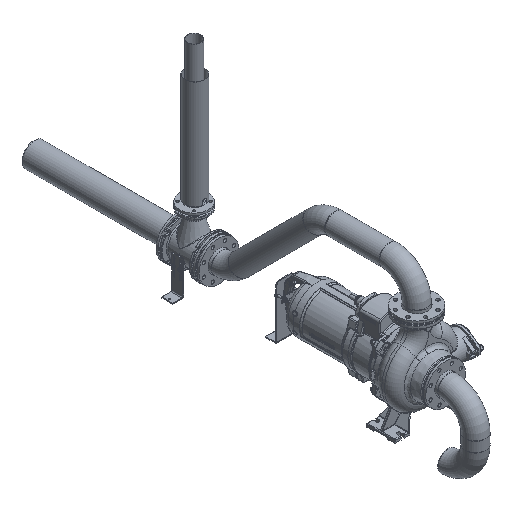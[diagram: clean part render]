
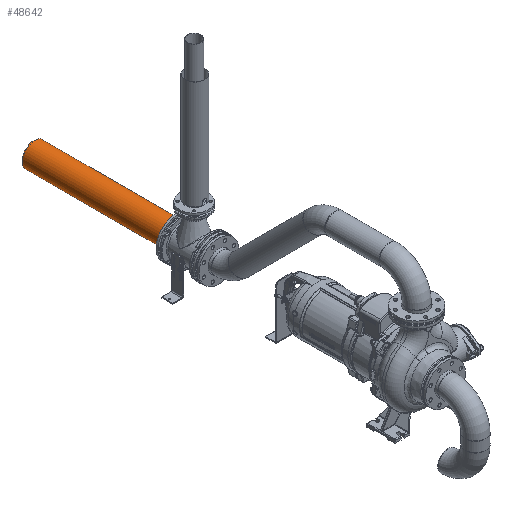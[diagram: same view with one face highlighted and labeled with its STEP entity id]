
A CAD part, isometric view. The second image highlights one B-rep face of the part: STEP entity #48642.
In plain terms, the highlighted cylindrical face has radius 66.5 mm (diameter 133 mm), a full revolution.
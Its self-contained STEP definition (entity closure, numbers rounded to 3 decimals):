
#7316=FACE_OUTER_BOUND('',#10518,.T.);
#10518=EDGE_LOOP('',(#43265,#43266,#43267,#43268,#43269));
#14263=LINE('',#124785,#16496);
#16496=VECTOR('',#66722,66.5);
#19411=CIRCLE('',#54545,66.5);
#19412=CIRCLE('',#54546,66.5);
#19413=CIRCLE('',#54548,66.5);
#23730=VERTEX_POINT('',#124777);
#23731=VERTEX_POINT('',#124779);
#23732=VERTEX_POINT('',#124783);
#30308=EDGE_CURVE('',#23730,#23731,#19411,.T.);
#30309=EDGE_CURVE('',#23731,#23730,#19412,.T.);
#30310=EDGE_CURVE('',#23732,#23732,#19413,.T.);
#30311=EDGE_CURVE('',#23732,#23731,#14263,.T.);
#43265=ORIENTED_EDGE('',*,*,#30310,.T.);
#43266=ORIENTED_EDGE('',*,*,#30311,.T.);
#43267=ORIENTED_EDGE('',*,*,#30308,.F.);
#43268=ORIENTED_EDGE('',*,*,#30309,.F.);
#43269=ORIENTED_EDGE('',*,*,#30311,.F.);
#46018=CYLINDRICAL_SURFACE('',#54547,66.5);
#48642=ADVANCED_FACE('',(#7316),#46018,.T.);
#54545=AXIS2_PLACEMENT_3D('',#124780,#66714,#66715);
#54546=AXIS2_PLACEMENT_3D('',#124781,#66716,#66717);
#54547=AXIS2_PLACEMENT_3D('',#124782,#66718,#66719);
#54548=AXIS2_PLACEMENT_3D('',#124784,#66720,#66721);
#66714=DIRECTION('center_axis',(0.,0.,-1.));
#66715=DIRECTION('ref_axis',(-1.,0.,0.));
#66716=DIRECTION('center_axis',(0.,0.,-1.));
#66717=DIRECTION('ref_axis',(-1.,0.,0.));
#66718=DIRECTION('center_axis',(0.,0.,1.));
#66719=DIRECTION('ref_axis',(1.,0.,0.));
#66720=DIRECTION('center_axis',(0.,0.,-1.));
#66721=DIRECTION('ref_axis',(1.,0.,0.));
#66722=DIRECTION('',(0.,0.,-1.));
#124777=CARTESIAN_POINT('',(66.5,0.,15.));
#124779=CARTESIAN_POINT('',(-66.5,0.,15.));
#124780=CARTESIAN_POINT('Origin',(0.,0.,15.));
#124781=CARTESIAN_POINT('Origin',(0.,0.,15.));
#124782=CARTESIAN_POINT('Origin',(0.,0.,0.));
#124783=CARTESIAN_POINT('',(-66.5,0.,800.));
#124784=CARTESIAN_POINT('Origin',(0.,0.,800.));
#124785=CARTESIAN_POINT('',(-66.5,0.,0.));
